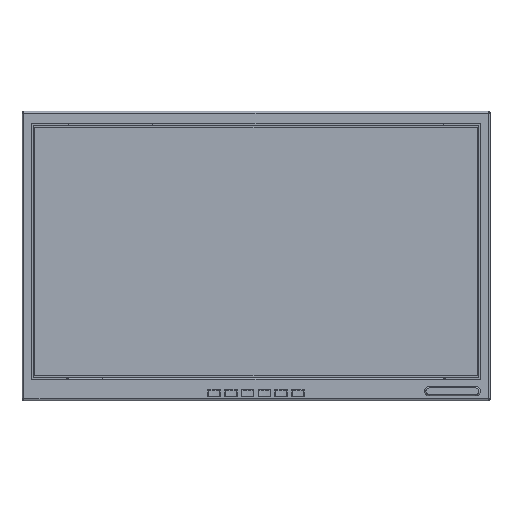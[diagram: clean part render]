
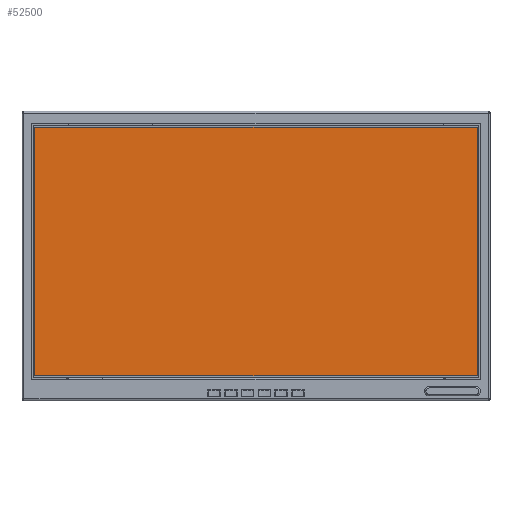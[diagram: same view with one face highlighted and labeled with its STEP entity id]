
A CAD part, front view. The second image highlights one B-rep face of the part: STEP entity #52500.
In plain terms, the highlighted planar face has unit normal (0, -1, 0).
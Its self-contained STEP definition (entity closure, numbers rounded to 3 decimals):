
#4855=LINE('',#86510,#9467);
#4858=LINE('',#86516,#9470);
#4861=LINE('',#86522,#9473);
#4864=LINE('',#86526,#9476);
#9467=VECTOR('',#72147,267.3);
#9470=VECTOR('',#72152,475.2);
#9473=VECTOR('',#72157,267.3);
#9476=VECTOR('',#72162,475.2);
#11022=PLANE('',#57541);
#14701=FACE_OUTER_BOUND('',#18378,.T.);
#18378=EDGE_LOOP('',(#46086,#46087,#46088,#46089));
#25108=VERTEX_POINT('',#86507);
#25109=VERTEX_POINT('',#86509);
#25111=VERTEX_POINT('',#86515);
#25113=VERTEX_POINT('',#86521);
#32100=EDGE_CURVE('',#25109,#25108,#4855,.T.);
#32103=EDGE_CURVE('',#25111,#25109,#4858,.T.);
#32106=EDGE_CURVE('',#25113,#25111,#4861,.T.);
#32109=EDGE_CURVE('',#25108,#25113,#4864,.T.);
#46086=ORIENTED_EDGE('',*,*,#32109,.T.);
#46087=ORIENTED_EDGE('',*,*,#32106,.T.);
#46088=ORIENTED_EDGE('',*,*,#32103,.T.);
#46089=ORIENTED_EDGE('',*,*,#32100,.T.);
#52500=ADVANCED_FACE('',(#14701),#11022,.T.);
#57541=AXIS2_PLACEMENT_3D('',#86527,#72163,#72164);
#72147=DIRECTION('',(0.,0.,1.));
#72152=DIRECTION('',(1.,0.,0.));
#72157=DIRECTION('',(0.,0.,-1.));
#72162=DIRECTION('',(-1.,0.,0.));
#72163=DIRECTION('center_axis',(0.,-1.,0.));
#72164=DIRECTION('ref_axis',(0.,0.,-1.));
#86507=CARTESIAN_POINT('',(237.6,-293.6,-461.35));
#86509=CARTESIAN_POINT('',(237.6,-293.6,-728.65));
#86510=CARTESIAN_POINT('',(237.6,-293.6,-461.35));
#86515=CARTESIAN_POINT('',(-237.6,-293.6,-728.65));
#86516=CARTESIAN_POINT('',(237.6,-293.6,-728.65));
#86521=CARTESIAN_POINT('',(-237.6,-293.6,-461.35));
#86522=CARTESIAN_POINT('',(-237.6,-293.6,-728.65));
#86526=CARTESIAN_POINT('',(-237.6,-293.6,-461.35));
#86527=CARTESIAN_POINT('Origin',(0.,-293.6,-595.));
